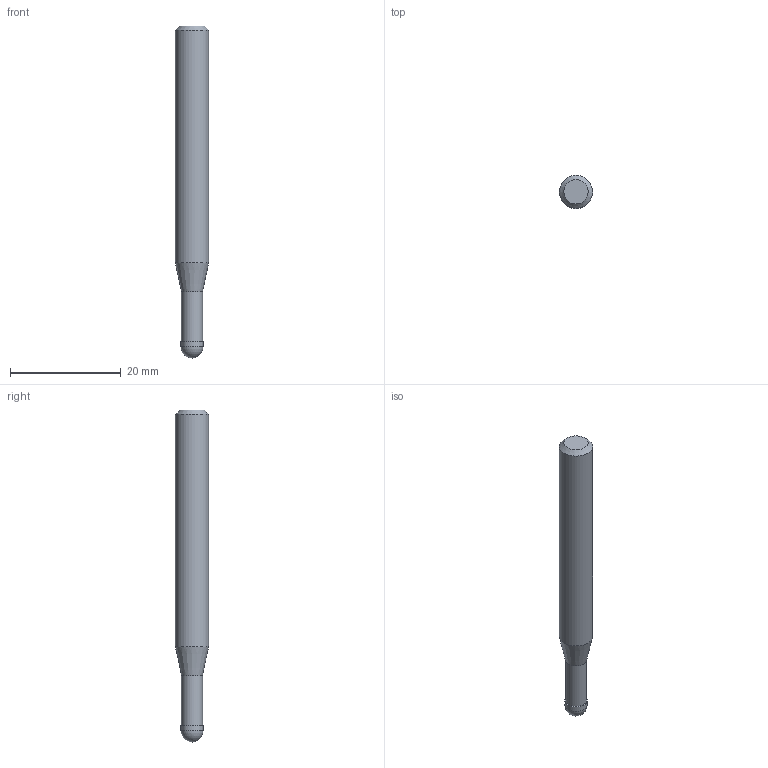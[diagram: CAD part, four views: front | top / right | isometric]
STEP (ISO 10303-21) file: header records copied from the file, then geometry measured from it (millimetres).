
FILE_DESCRIPTION((''),'2;1');
FILE_NAME('C:\Users\nsx150\AppData\Local\Temp\Mastercam 2021\ZXBT0ST9RL\TEMP.step','2021-06-25T11:03:25',(''),(''),'STEP Write','Mastercam 2021 ... CNC Software, Inc.','');
FILE_SCHEMA(('AUTOMOTIVE_DESIGN'));
Length unit declared in the file: millimetre
Products named in the file (1): None
Bounding box: 6 x 6 x 60 mm (x, y, z)
Volume: 1436 mm3; surface area: 1076.3 mm2
Topology: 2 solids, 2 shells, 9 faces, 14 edges, 8 vertices
Faces by surface type: plane 3, cylinder 3, cone 2, sphere 1
Full cylindrical faces by diameter (mm): 3.8 x1, 4 x1, 6 x1
Entity records: 211 total; most frequent: DIRECTION 36, CARTESIAN_POINT 25, AXIS2_PLACEMENT_3D 18, ORIENTED_EDGE 14, EDGE_LOOP 14, STYLED_ITEM 12, ADVANCED_FACE 9, FACE_BOUND 8
